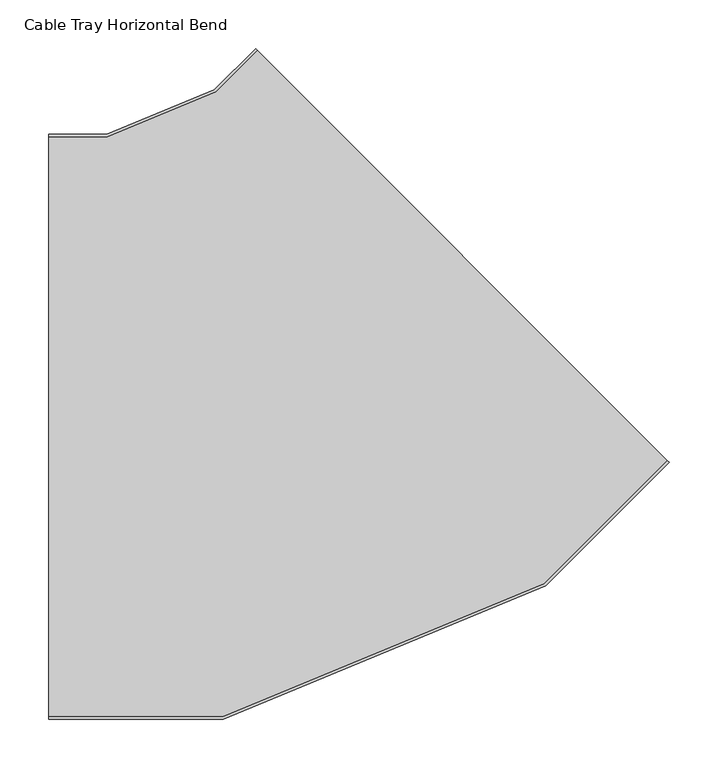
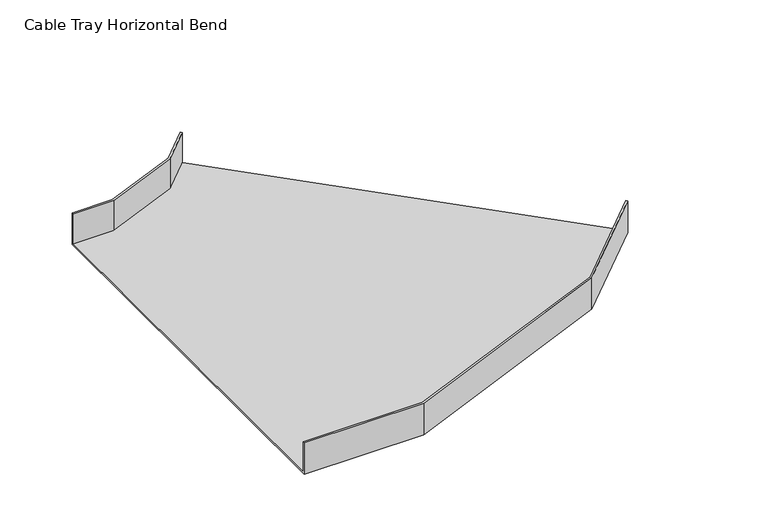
"""IFC4 building model written with IfcOpenShell, lengths in millimetres: cable carrier fitting geometry, Cable Tray Horizontal Bend : ELEC_SUB_CT_N2402."""

from ifc_helpers import new_model, si_unit, origin, place, context, project, spatial, faceted_brep, source, transform, mapped, element, save


def cable_tray_horizontal_bend_d2072277(model_context):
    return source(origin(), model_context, "Body", "Brep", [
        faceted_brep([(-248.5281374, -300.0, -25.0), (-248.5281374, -300.0, 25.0), (-248.5281374, -297.46, 25.0), (-248.5281374, -297.46, -22.46), (-248.5281374, 297.46, -22.46), (-248.5281374, 297.46, 25.0), (-248.5281374, 300.0, 25.0), (-248.5281374, 300.0, -25.0), (387.8679656, -36.3961031, -25.0), (-36.3961031, 387.8679656, -25.0), (-36.3961031, 387.8679656, 25.0), (-34.6000519, 386.0719144, 25.0), (-34.6000519, 386.0719144, -22.46), (386.0719144, -34.6000519, -22.46), (386.0719144, -34.6000519, 25.0), (387.8679656, -36.3961031, 25.0), (-69.5070068, -300.0, -25.0), (-69.5070068, -300.0, 25.0), (261.2809102, -162.9831585, 25.0), (259.8421158, -160.8298505, 25.0), (-70.0122442, -297.46, 25.0), (-70.0122442, -297.46, -22.46), (259.8421158, -160.8298505, -22.46), (-77.1529938, 343.5189725, -22.46), (-188.3491898, 297.46, -22.46), (-188.3491898, 297.46, 25.0), (-77.1529938, 343.5189725, 25.0), (-78.5917882, 345.6722805, 25.0), (-188.8544272, 300.0, 25.0), (-188.8544272, 300.0, -25.0), (-78.5917882, 345.6722805, -25.0), (261.2809102, -162.9831585, -25.0)], [[[0, 1, 2, 3, 4, 5, 6, 7]], [[8, 9, 10, 11, 12, 13, 14, 15]], [[1, 0, 16, 17]], [[2, 1, 17, 18, 15, 14, 19, 20]], [[3, 2, 20, 21]], [[4, 3, 21, 22, 13, 12, 23, 24]], [[5, 4, 24, 25]], [[6, 5, 25, 26, 11, 10, 27, 28]], [[7, 6, 28, 29]], [[0, 7, 29, 30, 9, 8, 31, 16]], [[17, 16, 31, 18]], [[21, 20, 19, 22]], [[25, 24, 23, 26]], [[29, 28, 27, 30]], [[18, 31, 8, 15]], [[22, 19, 14, 13]], [[26, 23, 12, 11]], [[30, 27, 10, 9]]]),
    ])


if __name__ == "__main__":
    model = new_model("IFC4")
    model_context = context("Model", 3, world=origin())
    ifc_project = project(units=[si_unit("LENGTHUNIT", "METRE", prefix="MILLI")], contexts=[model_context])
    site = spatial("IfcSite", under=ifc_project)
    building = spatial("IfcBuilding", under=site)
    placement = place(None, origin())
    cable_tray_horizontal_bend_shape = cable_tray_horizontal_bend_d2072277(model_context)
    element("IfcCableCarrierFitting", 1, ObjectType="Cable Tray Horizontal Bend : ELEC_SUB_CT_N2402", at=placement, inside=building, context=model_context, shape_type="MappedRepresentation", body=[
        mapped(cable_tray_horizontal_bend_shape, transform((0.0, 0.0, 0.0), x_axis=(1.0, 0.0, 0.0), y_axis=(0.0, 1.0, 0.0), z_axis=(0.0, 0.0, 1.0))),
    ])
    save(model, "model.ifc")
